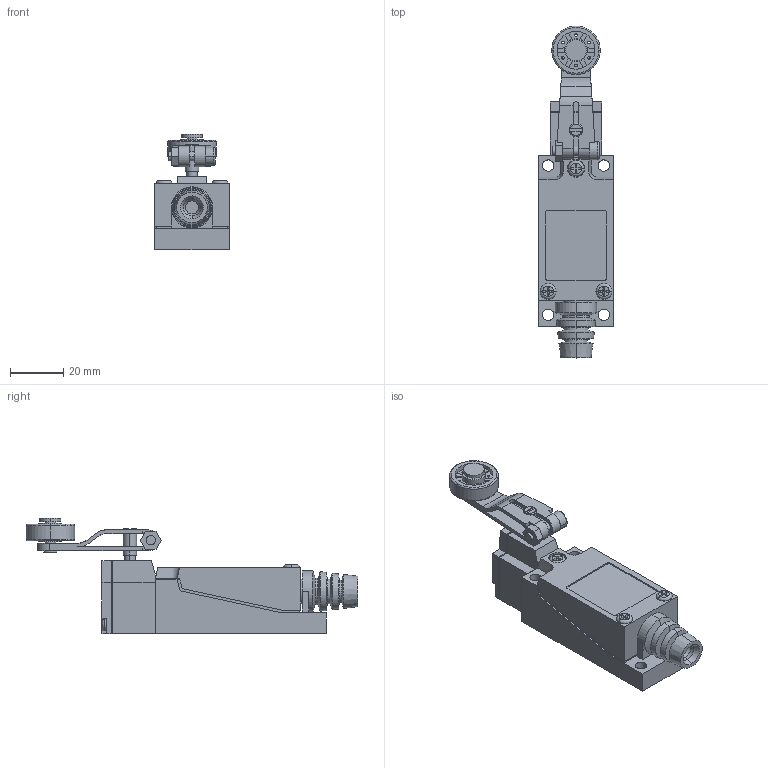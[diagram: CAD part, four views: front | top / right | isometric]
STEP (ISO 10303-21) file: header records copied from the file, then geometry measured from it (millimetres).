
FILE_DESCRIPTION (( 'STEP AP203' ), '1' );
FILE_NAME ('FM8104.STEP', '2018-06-20T16:21:51', ( '' ), ( '' ), 'SwSTEP 2.0', 'SolidWorks 2012', '' );
FILE_SCHEMA (( 'CONFIG_CONTROL_DESIGN' ));
Length unit declared in the file: millimetre
Products named in the file (1): FM8104
Bounding box: 28 x 124.64 x 43.3 mm (x, y, z)
Volume: 52905.4 mm3; surface area: 16719.3 mm2
Topology: 2 solids, 2 shells, 416 faces, 1123 edges, 732 vertices
Faces by surface type: plane 275, cylinder 93, cone 24, torus 20, bspline 4
Entity records: 13506 total; most frequent: CARTESIAN_POINT 2772, ORIENTED_EDGE 2246, DIRECTION 2199, EDGE_CURVE 1123, VECTOR 741, LINE 741, VERTEX_POINT 732, AXIS2_PLACEMENT_3D 729
